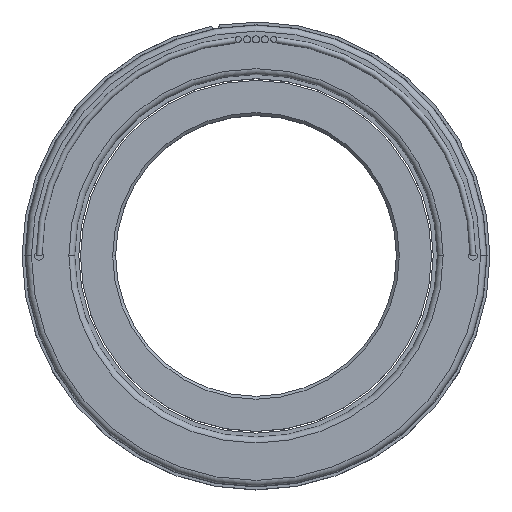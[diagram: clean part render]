
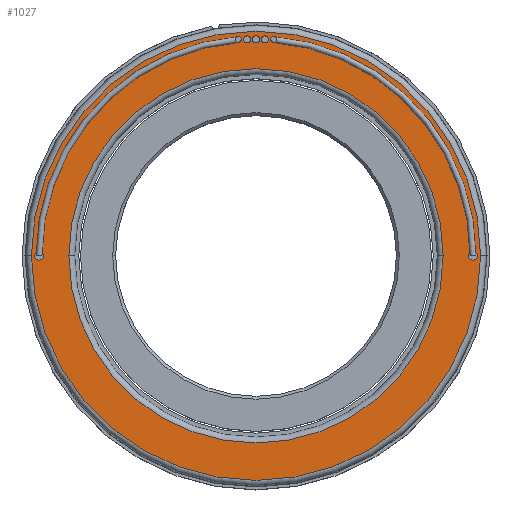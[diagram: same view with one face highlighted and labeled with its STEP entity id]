
A CAD part, top view. The second image highlights one B-rep face of the part: STEP entity #1027.
In plain terms, the highlighted planar face has unit normal (0, 0, 1).
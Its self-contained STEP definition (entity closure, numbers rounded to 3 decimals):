
#125 = CARTESIAN_POINT ( 'NONE',  ( 0., 0., 38.1 ) ) ;
#127 = DIRECTION ( 'NONE',  ( 0., 0., -1. ) ) ;
#161 = DIRECTION ( 'NONE',  ( 1., 0., 0. ) ) ;
#166 = EDGE_LOOP ( 'NONE', ( #2331, #2032 ) ) ;
#167 = CARTESIAN_POINT ( 'NONE',  ( 96.139, 0., 38.1 ) ) ;
#184 = DIRECTION ( 'NONE',  ( 1., 0., 0. ) ) ;
#227 = CIRCLE ( 'NONE', #1768, 81.28 ) ;
#240 = CIRCLE ( 'NONE', #2862, 81.28 ) ;
#258 = EDGE_LOOP ( 'NONE', ( #2805, #2810 ) ) ;
#285 = CARTESIAN_POINT ( 'NONE',  ( 92.329, 0., 38.1 ) ) ;
#410 = CIRCLE ( 'NONE', #1820, 97.536 ) ;
#418 = VERTEX_POINT ( 'NONE', #167 ) ;
#443 = EDGE_CURVE ( 'NONE', #585, #851, #2753, .T. ) ;
#526 = FACE_BOUND ( 'NONE', #258, .T. ) ;
#539 = DIRECTION ( 'NONE',  ( 1., 0., 0. ) ) ;
#583 = VERTEX_POINT ( 'NONE', #285 ) ;
#585 = VERTEX_POINT ( 'NONE', #1632 ) ;
#600 = DIRECTION ( 'NONE',  ( 1., 0., 0. ) ) ;
#680 = DIRECTION ( 'NONE',  ( 0., 0., 1. ) ) ;
#762 = EDGE_CURVE ( 'NONE', #1655, #3376, #410, .T. ) ;
#826 = EDGE_CURVE ( 'NONE', #583, #418, #2138, .T. ) ;
#848 = DIRECTION ( 'NONE',  ( 0., 0., -1. ) ) ;
#851 = VERTEX_POINT ( 'NONE', #1996 ) ;
#852 = AXIS2_PLACEMENT_3D ( 'NONE', #125, #680, #1990 ) ;
#902 = AXIS2_PLACEMENT_3D ( 'NONE', #1582, #1088, #1364 ) ;
#1027 = ADVANCED_FACE ( 'NONE', ( #2471, #2188, #526, #2788 ), #2014, .T. ) ;
#1088 = DIRECTION ( 'NONE',  ( 0., 0., 1. ) ) ;
#1094 = CARTESIAN_POINT ( 'NONE',  ( 0., 0., 38.1 ) ) ;
#1231 = VERTEX_POINT ( 'NONE', #3128 ) ;
#1258 = EDGE_CURVE ( 'NONE', #3362, #1231, #240, .T. ) ;
#1340 = AXIS2_PLACEMENT_3D ( 'NONE', #1803, #2015, #161 ) ;
#1349 = EDGE_CURVE ( 'NONE', #851, #585, #2832, .T. ) ;
#1364 = DIRECTION ( 'NONE',  ( 1., 0., 0. ) ) ;
#1459 = DIRECTION ( 'NONE',  ( 0., 0., 1. ) ) ;
#1582 = CARTESIAN_POINT ( 'NONE',  ( -94.234, 0., 38.1 ) ) ;
#1594 = CARTESIAN_POINT ( 'NONE',  ( -97.536, 0., 38.1 ) ) ;
#1628 = CARTESIAN_POINT ( 'NONE',  ( -94.234, 0., 38.1 ) ) ;
#1632 = CARTESIAN_POINT ( 'NONE',  ( -96.139, 0., 38.1 ) ) ;
#1655 = VERTEX_POINT ( 'NONE', #1594 ) ;
#1746 = EDGE_LOOP ( 'NONE', ( #3272, #2078 ) ) ;
#1768 = AXIS2_PLACEMENT_3D ( 'NONE', #3282, #127, #2487 ) ;
#1803 = CARTESIAN_POINT ( 'NONE',  ( 94.234, 0., 38.1 ) ) ;
#1820 = AXIS2_PLACEMENT_3D ( 'NONE', #2197, #1459, #600 ) ;
#1887 = AXIS2_PLACEMENT_3D ( 'NONE', #1979, #3007, #2699 ) ;
#1907 = EDGE_CURVE ( 'NONE', #3376, #1655, #2514, .T. ) ;
#1979 = CARTESIAN_POINT ( 'NONE',  ( 94.234, 0., 38.1 ) ) ;
#1990 = DIRECTION ( 'NONE',  ( 1., 0., 0. ) ) ;
#1996 = CARTESIAN_POINT ( 'NONE',  ( -92.329, 0., 38.1 ) ) ;
#2005 = AXIS2_PLACEMENT_3D ( 'NONE', #3348, #2524, #184 ) ;
#2014 = PLANE ( 'NONE',  #2005 ) ;
#2015 = DIRECTION ( 'NONE',  ( 0., 0., 1. ) ) ;
#2032 = ORIENTED_EDGE ( 'NONE', *, *, #762, .T. ) ;
#2077 = EDGE_LOOP ( 'NONE', ( #2775, #3332 ) ) ;
#2078 = ORIENTED_EDGE ( 'NONE', *, *, #826, .F. ) ;
#2123 = DIRECTION ( 'NONE',  ( 0., 0., 1. ) ) ;
#2138 = CIRCLE ( 'NONE', #1887, 1.905 ) ;
#2188 = FACE_BOUND ( 'NONE', #2077, .T. ) ;
#2197 = CARTESIAN_POINT ( 'NONE',  ( 0., 0., 38.1 ) ) ;
#2331 = ORIENTED_EDGE ( 'NONE', *, *, #1907, .T. ) ;
#2471 = FACE_BOUND ( 'NONE', #1746, .T. ) ;
#2487 = DIRECTION ( 'NONE',  ( 1., 0., 0. ) ) ;
#2505 = CARTESIAN_POINT ( 'NONE',  ( 97.536, 0., 38.1 ) ) ;
#2514 = CIRCLE ( 'NONE', #852, 97.536 ) ;
#2524 = DIRECTION ( 'NONE',  ( 0., 0., 1. ) ) ;
#2696 = EDGE_CURVE ( 'NONE', #1231, #3362, #227, .T. ) ;
#2699 = DIRECTION ( 'NONE',  ( 1., 0., 0. ) ) ;
#2753 = CIRCLE ( 'NONE', #902, 1.905 ) ;
#2762 = EDGE_CURVE ( 'NONE', #418, #583, #3220, .T. ) ;
#2775 = ORIENTED_EDGE ( 'NONE', *, *, #1349, .F. ) ;
#2788 = FACE_OUTER_BOUND ( 'NONE', #166, .T. ) ;
#2805 = ORIENTED_EDGE ( 'NONE', *, *, #2696, .T. ) ;
#2810 = ORIENTED_EDGE ( 'NONE', *, *, #1258, .T. ) ;
#2832 = CIRCLE ( 'NONE', #3419, 1.905 ) ;
#2862 = AXIS2_PLACEMENT_3D ( 'NONE', #1094, #848, #2906 ) ;
#2906 = DIRECTION ( 'NONE',  ( 1., 0., 0. ) ) ;
#3007 = DIRECTION ( 'NONE',  ( 0., 0., 1. ) ) ;
#3128 = CARTESIAN_POINT ( 'NONE',  ( 81.28, 0., 38.1 ) ) ;
#3220 = CIRCLE ( 'NONE', #1340, 1.905 ) ;
#3272 = ORIENTED_EDGE ( 'NONE', *, *, #2762, .F. ) ;
#3282 = CARTESIAN_POINT ( 'NONE',  ( 0., 0., 38.1 ) ) ;
#3310 = CARTESIAN_POINT ( 'NONE',  ( -81.28, 0., 38.1 ) ) ;
#3332 = ORIENTED_EDGE ( 'NONE', *, *, #443, .F. ) ;
#3348 = CARTESIAN_POINT ( 'NONE',  ( 0., 0., 38.1 ) ) ;
#3362 = VERTEX_POINT ( 'NONE', #3310 ) ;
#3376 = VERTEX_POINT ( 'NONE', #2505 ) ;
#3419 = AXIS2_PLACEMENT_3D ( 'NONE', #1628, #2123, #539 ) ;
